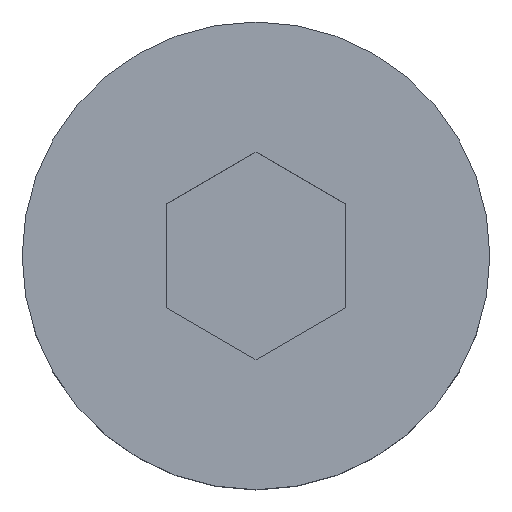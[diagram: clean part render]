
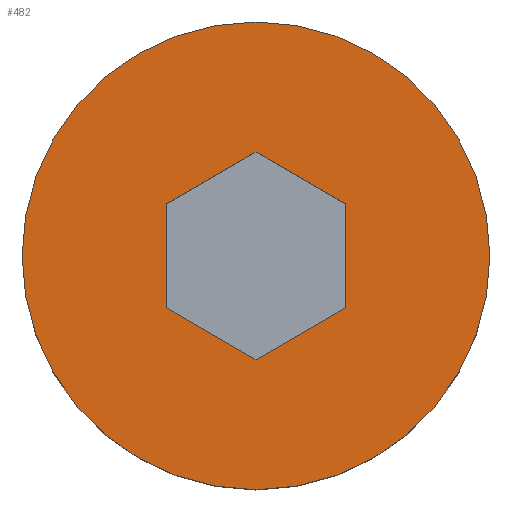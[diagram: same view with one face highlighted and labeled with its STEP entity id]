
A CAD part, top view. The second image highlights one B-rep face of the part: STEP entity #482.
In plain terms, the highlighted planar face has unit normal (0, 0, 1).
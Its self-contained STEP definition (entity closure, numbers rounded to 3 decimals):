
#4 = CARTESIAN_POINT ( 'NONE',  ( 7.25, 9.959, 8. ) ) ;
#40 = EDGE_CURVE ( 'NONE', #131, #559, #390, .T. ) ;
#57 = EDGE_CURVE ( 'NONE', #1122, #70, #713, .T. ) ;
#70 = VERTEX_POINT ( 'NONE', #861 ) ;
#101 = EDGE_LOOP ( 'NONE', ( #1001, #1110, #332, #1164, #1034, #486 ) ) ;
#111 = PLANE ( 'NONE',  #445 ) ;
#125 = VECTOR ( 'NONE', #679, 1000. ) ;
#131 = VERTEX_POINT ( 'NONE', #1051 ) ;
#135 = CARTESIAN_POINT ( 'NONE',  ( 0., -5.774, 8. ) ) ;
#179 = LINE ( 'NONE', #498, #630 ) ;
#186 = VERTEX_POINT ( 'NONE', #1053 ) ;
#261 = AXIS2_PLACEMENT_3D ( 'NONE', #347, #984, #454 ) ;
#307 = LINE ( 'NONE', #873, #539 ) ;
#310 = CARTESIAN_POINT ( 'NONE',  ( 0., 0., 8. ) ) ;
#313 = FACE_BOUND ( 'NONE', #101, .T. ) ;
#314 = VERTEX_POINT ( 'NONE', #995 ) ;
#325 = CARTESIAN_POINT ( 'NONE',  ( -5., 2.887, 8. ) ) ;
#332 = ORIENTED_EDGE ( 'NONE', *, *, #987, .F. ) ;
#347 = CARTESIAN_POINT ( 'NONE',  ( 0., 0., 8. ) ) ;
#380 = DIRECTION ( 'NONE',  ( -0.866, 0.5, 0. ) ) ;
#390 = LINE ( 'NONE', #4, #125 ) ;
#408 = EDGE_CURVE ( 'NONE', #70, #1122, #737, .T. ) ;
#410 = DIRECTION ( 'NONE',  ( 1., 0., 0. ) ) ;
#428 = AXIS2_PLACEMENT_3D ( 'NONE', #310, #948, #410 ) ;
#434 = VECTOR ( 'NONE', #866, 1000. ) ;
#445 = AXIS2_PLACEMENT_3D ( 'NONE', #483, #1119, #574 ) ;
#454 = DIRECTION ( 'NONE',  ( 1., 0., 0. ) ) ;
#471 = VECTOR ( 'NONE', #1124, 1000. ) ;
#482 = ADVANCED_FACE ( 'NONE', ( #1011, #313 ), #111, .F. ) ;
#483 = CARTESIAN_POINT ( 'NONE',  ( 13., 0., 8. ) ) ;
#486 = ORIENTED_EDGE ( 'NONE', *, *, #1091, .F. ) ;
#498 = CARTESIAN_POINT ( 'NONE',  ( 5., 0., 8. ) ) ;
#539 = VECTOR ( 'NONE', #961, 1000. ) ;
#559 = VERTEX_POINT ( 'NONE', #325 ) ;
#574 = DIRECTION ( 'NONE',  ( -1., 0., 0. ) ) ;
#586 = DIRECTION ( 'NONE',  ( 0., 1., 0. ) ) ;
#630 = VECTOR ( 'NONE', #586, 1000. ) ;
#679 = DIRECTION ( 'NONE',  ( -0.866, -0.5, 0. ) ) ;
#682 = CARTESIAN_POINT ( 'NONE',  ( 12.25, 1.299, 8. ) ) ;
#697 = LINE ( 'NONE', #927, #471 ) ;
#713 = CIRCLE ( 'NONE', #428, 13. ) ;
#737 = CIRCLE ( 'NONE', #261, 13. ) ;
#778 = VECTOR ( 'NONE', #380, 1000. ) ;
#790 = ORIENTED_EDGE ( 'NONE', *, *, #408, .T. ) ;
#799 = CARTESIAN_POINT ( 'NONE',  ( 5., 2.887, 8. ) ) ;
#833 = CARTESIAN_POINT ( 'NONE',  ( 12.25, -1.299, 8. ) ) ;
#861 = CARTESIAN_POINT ( 'NONE',  ( 13., 0., 8. ) ) ;
#866 = DIRECTION ( 'NONE',  ( 0.866, 0.5, 0. ) ) ;
#873 = CARTESIAN_POINT ( 'NONE',  ( -5., 0., 8. ) ) ;
#896 = EDGE_CURVE ( 'NONE', #1174, #131, #1023, .T. ) ;
#927 = CARTESIAN_POINT ( 'NONE',  ( 7.25, -9.959, 8. ) ) ;
#930 = EDGE_CURVE ( 'NONE', #314, #1013, #697, .T. ) ;
#948 = DIRECTION ( 'NONE',  ( 0., 0., 1. ) ) ;
#961 = DIRECTION ( 'NONE',  ( 0., -1., 0. ) ) ;
#984 = DIRECTION ( 'NONE',  ( 0., 0., 1. ) ) ;
#987 = EDGE_CURVE ( 'NONE', #186, #1174, #179, .T. ) ;
#995 = CARTESIAN_POINT ( 'NONE',  ( -5., -2.887, 8. ) ) ;
#1001 = ORIENTED_EDGE ( 'NONE', *, *, #40, .F. ) ;
#1011 = FACE_OUTER_BOUND ( 'NONE', #1101, .T. ) ;
#1013 = VERTEX_POINT ( 'NONE', #135 ) ;
#1023 = LINE ( 'NONE', #833, #778 ) ;
#1034 = ORIENTED_EDGE ( 'NONE', *, *, #930, .F. ) ;
#1051 = CARTESIAN_POINT ( 'NONE',  ( 0., 5.774, 8. ) ) ;
#1053 = CARTESIAN_POINT ( 'NONE',  ( 5., -2.887, 8. ) ) ;
#1058 = EDGE_CURVE ( 'NONE', #1013, #186, #1140, .T. ) ;
#1061 = CARTESIAN_POINT ( 'NONE',  ( -13., 0., 8. ) ) ;
#1091 = EDGE_CURVE ( 'NONE', #559, #314, #307, .T. ) ;
#1101 = EDGE_LOOP ( 'NONE', ( #790, #1183 ) ) ;
#1110 = ORIENTED_EDGE ( 'NONE', *, *, #896, .F. ) ;
#1119 = DIRECTION ( 'NONE',  ( 0., 0., -1. ) ) ;
#1122 = VERTEX_POINT ( 'NONE', #1061 ) ;
#1124 = DIRECTION ( 'NONE',  ( 0.866, -0.5, 0. ) ) ;
#1140 = LINE ( 'NONE', #682, #434 ) ;
#1164 = ORIENTED_EDGE ( 'NONE', *, *, #1058, .F. ) ;
#1174 = VERTEX_POINT ( 'NONE', #799 ) ;
#1183 = ORIENTED_EDGE ( 'NONE', *, *, #57, .T. ) ;
